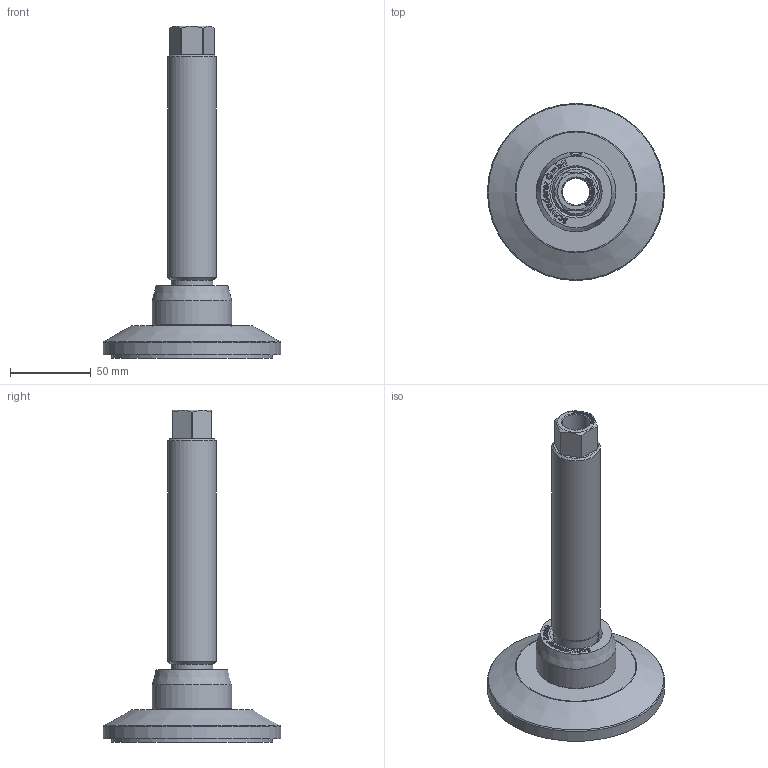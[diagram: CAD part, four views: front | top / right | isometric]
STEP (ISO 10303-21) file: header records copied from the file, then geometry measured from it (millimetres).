
FILE_DESCRIPTION(/* description */ ('JCM 100C - M30 - S6'),/* implementation_level */ '2;1');
FILE_NAME(/* name */ 'C:\Users\Public\Documents\Autodesk\Inventor LT 2016\Workspace\Fussplatte+Blechteller\JCMHD 100C - S6 - HSD180.stp',/* time_stamp */ '2017-01-10T11:19:28+01:00',/* author */ ('T. Rey'),/* organization */ ('Schwaderer GmbH Robert-Bosch-Str. 10 71563 Affalterbach'),/* preprocessor_version */ 'ST-DEVELOPER v16.1',/* originating_system */ 'Autodesk Inventor LT ',/* authorisation */ '');
FILE_SCHEMA (('CONFIG_CONTROL_DESIGN'));
Length unit declared in the file: millimetre
Products named in the file (1): JCM - M30
Bounding box: 110 x 110 x 206.13 mm (x, y, z)
Volume: 261414.6 mm3; surface area: 77987.1 mm2
Topology: 4 solids, 4 shells, 479 faces, 1260 edges, 829 vertices
Faces by surface type: plane 243, bspline 192, cylinder 23, cone 17, torus 3, sphere 1
Full cylindrical faces by diameter (mm): 5 x1, 17 x1, 18.5 x1, 25 x1, 26 x1, 26.5 x1, 27.5 x1, 28.5 x2, 30 x2, 31 x1, 49.5 x1, 100 x2, 110 x1
Entity records: 15857 total; most frequent: CARTESIAN_POINT 5181, ORIENTED_EDGE 2440, DIRECTION 1468, EDGE_CURVE 1220, VERTEX_POINT 824, LINE 750, VECTOR 750, EDGE_LOOP 564
